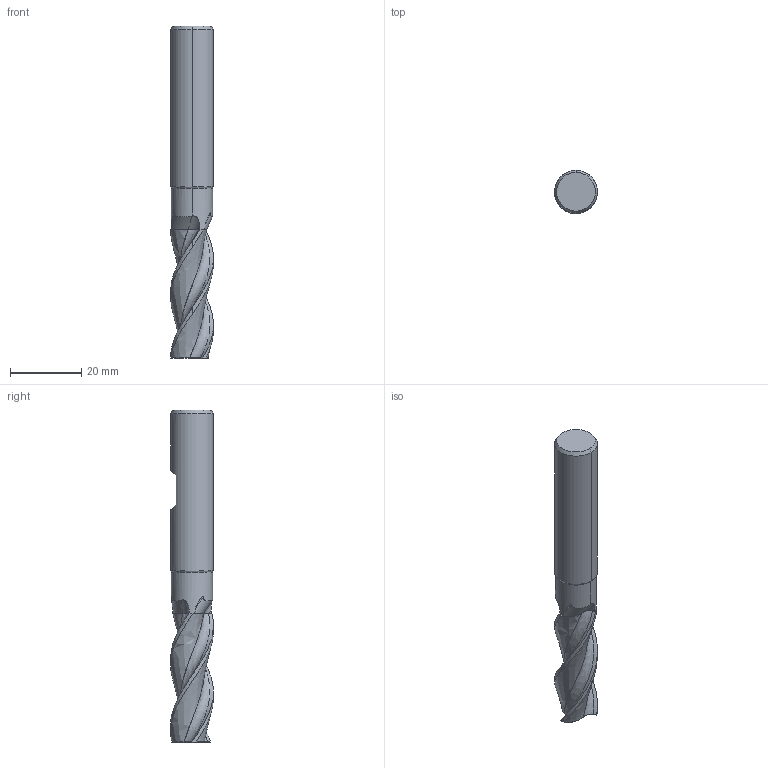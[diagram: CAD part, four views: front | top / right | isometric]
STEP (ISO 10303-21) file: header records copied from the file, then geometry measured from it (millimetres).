
FILE_DESCRIPTION(('no description'),'unknown implementation level');
FILE_NAME('solidK3EFX8ysWZbhu3ZYllJkt0jKZKQ_1.STP',' ',('CIMSOURCE GmbH'),('CADClick - KiM GmbH - www.kimweb.de'),'unknown preprocess','ACIS','unknown authorization');
FILE_SCHEMA(('automotive_design'));
Length unit declared in the file: millimetre
Products named in the file (2): NOCUT; CUT
Bounding box: 12 x 12 x 93 mm (x, y, z)
Volume: 8383 mm3; surface area: 5003.7 mm2
Topology: 2 solids, 2 shells, 106 faces, 297 edges, 194 vertices
Faces by surface type: bspline 36, plane 23, cone 19, cylinder 16, revolution 12
Entity records: 20188 total; most frequent: CARTESIAN_POINT 14494, STYLED_ITEM 599, PRESENTATION_STYLE_ASSIGNMENT 599, COLOUR_RGB 599, ORIENTED_EDGE 594, DIRECTION 331, EDGE_CURVE 297, CURVE_STYLE 297
